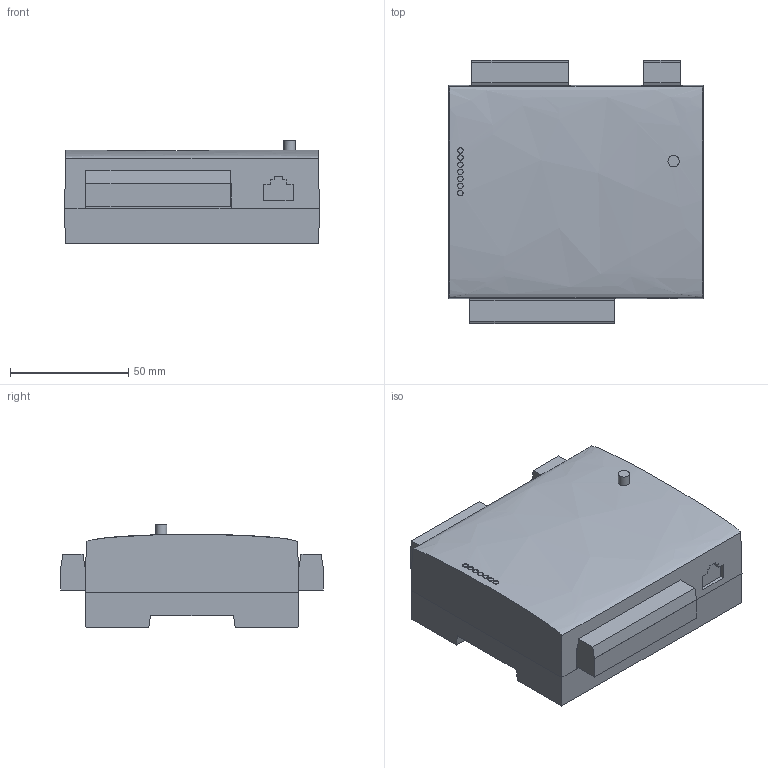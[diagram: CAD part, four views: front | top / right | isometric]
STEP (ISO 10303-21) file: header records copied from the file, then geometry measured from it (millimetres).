
FILE_DESCRIPTION(/* description */ ('STEP AP242 Edition 2','CAx-IF Rec.Pracs.---Representation and Presentation of Product Manufacturing Information (PMI)---4.0---2014-10-13','CAx-IF Rec.Pracs.---3D Tessellated Geometry---0.4---2014-09-14','2;1','CAx-IF Rec.Pracs.---User Defined Attributes---1.5---2016-08-15'),/* implementation_level */ '2;1');
FILE_NAME(/* name */ '69c2bc5aef974f8eedcaa40a',/* time_stamp */ '2026-03-24T16:31:23Z',/* author */ (''),/* organization */ (''),/* preprocessor_version */ 'ST-DEVELOPER v20',/* originating_system */ 'ONSHAPE BY PTC INC, 1.212',/* authorisation */ ' ');
FILE_SCHEMA (('AP242_MANAGED_MODEL_BASED_3D_ENGINEERING_MIM_LF { 1 0 10303 442 3 1 4 }'));
Length unit declared in the file: metre
Products named in the file (5): DIN_abs; XPC; 5PinGreen; 3pin_Mono; 12PinMono
Assembly tree (4 placements, depth 2):
  DIN_abs
    XPC
    5PinGreen
    3pin_Mono
    12PinMono
Bounding box: 107.5 x 111 x 43.84 mm (x, y, z)
Volume: 369635.3 mm3; surface area: 42141.9 mm2
Topology: 4 solids, 4 shells, 88 faces, 208 edges, 137 vertices
Faces by surface type: plane 72, cylinder 15, bspline 1
Full cylindrical faces by diameter (mm): 2.3 x7, 4.8 x1
Entity records: 2701 total; most frequent: CARTESIAN_POINT 651, ORIENTED_EDGE 390, DIRECTION 363, EDGE_CURVE 195, LINE 177, VECTOR 177, VERTEX_POINT 132, EDGE_LOOP 105
